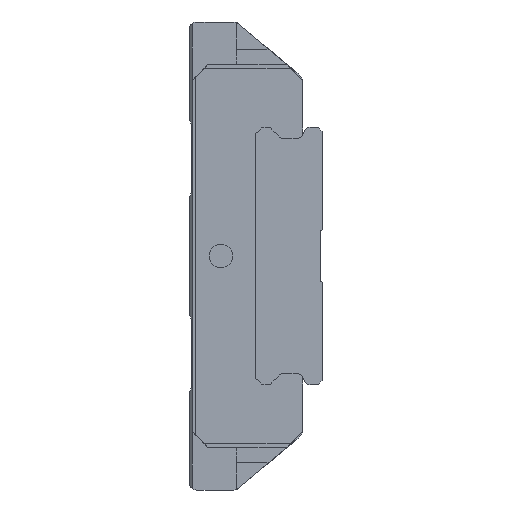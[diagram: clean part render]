
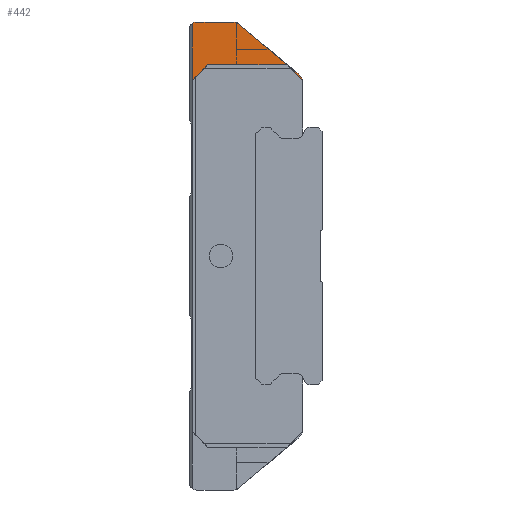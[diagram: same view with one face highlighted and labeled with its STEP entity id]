
A CAD part, left-side view. The second image highlights one B-rep face of the part: STEP entity #442.
In plain terms, the highlighted planar face has unit normal (-1, 0, 0).
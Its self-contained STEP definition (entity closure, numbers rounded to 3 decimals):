
#442 = ADVANCED_FACE( '', ( #1354 ), #1355, .F. );
#1354 = FACE_OUTER_BOUND( '', #2394, .T. );
#1355 = PLANE( '', #2395 );
#2394 = EDGE_LOOP( '', ( #5174, #5175, #5176, #5177, #5178, #5179, #5180, #5181, #5182 ) );
#2395 = AXIS2_PLACEMENT_3D( '', #5183, #5184, #5185 );
#5174 = ORIENTED_EDGE( '', *, *, #7000, .T. );
#5175 = ORIENTED_EDGE( '', *, *, #7003, .T. );
#5176 = ORIENTED_EDGE( '', *, *, #7004, .T. );
#5177 = ORIENTED_EDGE( '', *, *, #7005, .T. );
#5178 = ORIENTED_EDGE( '', *, *, #7006, .F. );
#5179 = ORIENTED_EDGE( '', *, *, #7007, .F. );
#5180 = ORIENTED_EDGE( '', *, *, #7008, .F. );
#5181 = ORIENTED_EDGE( '', *, *, #7009, .F. );
#5182 = ORIENTED_EDGE( '', *, *, #6968, .F. );
#5183 = CARTESIAN_POINT( '', ( 461., 2.5, 0. ) );
#5184 = DIRECTION( '', ( 1., 0., 0. ) );
#5185 = DIRECTION( '', ( 0., 0., -1. ) );
#6968 = EDGE_CURVE( '', #8620, #8622, #8623, .T. );
#7000 = EDGE_CURVE( '', #8620, #8673, #8675, .T. );
#7003 = EDGE_CURVE( '', #8673, #8678, #8679, .T. );
#7004 = EDGE_CURVE( '', #8678, #8680, #8681, .T. );
#7005 = EDGE_CURVE( '', #8680, #8682, #8683, .T. );
#7006 = EDGE_CURVE( '', #8684, #8682, #8685, .T. );
#7007 = EDGE_CURVE( '', #8686, #8684, #8687, .T. );
#7008 = EDGE_CURVE( '', #8688, #8686, #8689, .T. );
#7009 = EDGE_CURVE( '', #8622, #8688, #8690, .T. );
#8620 = VERTEX_POINT( '', #10775 );
#8622 = VERTEX_POINT( '', #10777 );
#8623 = CIRCLE( '', #10778, 1. );
#8673 = VERTEX_POINT( '', #10845 );
#8675 = LINE( '', #10848, #10849 );
#8678 = VERTEX_POINT( '', #10854 );
#8679 = LINE( '', #10855, #10856 );
#8680 = VERTEX_POINT( '', #10857 );
#8681 = LINE( '', #10858, #10859 );
#8682 = VERTEX_POINT( '', #10860 );
#8683 = LINE( '', #10861, #10862 );
#8684 = VERTEX_POINT( '', #10863 );
#8685 = CIRCLE( '', #10864, 1.997 );
#8686 = VERTEX_POINT( '', #10865 );
#8687 = LINE( '', #10866, #10867 );
#8688 = VERTEX_POINT( '', #10868 );
#8689 = CIRCLE( '', #10869, 1. );
#8690 = LINE( '', #10870, #10871 );
#10775 = CARTESIAN_POINT( '', ( 461., 16.7, 29.789 ) );
#10777 = CARTESIAN_POINT( '', ( 461., 16.086, 30. ) );
#10778 = AXIS2_PLACEMENT_3D( '', #13250, #13251, #13252 );
#10845 = CARTESIAN_POINT( '', ( 461., 16.7, 22.5 ) );
#10848 = CARTESIAN_POINT( '', ( 461., 16.7, 30. ) );
#10849 = VECTOR( '', #13310, 1. );
#10854 = CARTESIAN_POINT( '', ( 461., 14.7, 24.5 ) );
#10855 = CARTESIAN_POINT( '', ( 461., 17.775, 21.425 ) );
#10856 = VECTOR( '', #13313, 1. );
#10857 = CARTESIAN_POINT( '', ( 461., 4.5, 24.5 ) );
#10858 = CARTESIAN_POINT( '', ( 461., 3.5, 24.5 ) );
#10859 = VECTOR( '', #13314, 1. );
#10860 = CARTESIAN_POINT( '', ( 461., 2.513, 22.513 ) );
#10861 = CARTESIAN_POINT( '', ( 461., -3.125, 16.875 ) );
#10862 = VECTOR( '', #13315, 1. );
#10863 = CARTESIAN_POINT( '', ( 461., 3.115, 23.383 ) );
#10864 = AXIS2_PLACEMENT_3D( '', #13316, #13317, #13318 );
#10865 = CARTESIAN_POINT( '', ( 461., 10.721, 29.766 ) );
#10866 = CARTESIAN_POINT( '', ( 461., 10.721, 29.766 ) );
#10867 = VECTOR( '', #13319, 1. );
#10868 = CARTESIAN_POINT( '', ( 461., 11.364, 30. ) );
#10869 = AXIS2_PLACEMENT_3D( '', #13320, #13321, #13322 );
#10870 = CARTESIAN_POINT( '', ( 461., 16.086, 30. ) );
#10871 = VECTOR( '', #13323, 1. );
#13250 = CARTESIAN_POINT( '', ( 461., 16.086, 29. ) );
#13251 = DIRECTION( '', ( 1., 0., 0. ) );
#13252 = DIRECTION( '', ( 0., 0.914, 0.406 ) );
#13310 = DIRECTION( '', ( 0., 0., -1. ) );
#13313 = DIRECTION( '', ( 0., -0.707, 0.707 ) );
#13314 = DIRECTION( '', ( 0., -1., 0. ) );
#13315 = DIRECTION( '', ( 0., -0.707, -0.707 ) );
#13316 = CARTESIAN_POINT( '', ( 461., 4.397, 21.852 ) );
#13317 = DIRECTION( '', ( 1., 0., 0. ) );
#13318 = DIRECTION( '', ( 0., -0.642, 0.767 ) );
#13319 = DIRECTION( '', ( 0., -0.766, -0.643 ) );
#13320 = CARTESIAN_POINT( '', ( 461., 11.364, 29. ) );
#13321 = DIRECTION( '', ( 1., 0., 0. ) );
#13322 = DIRECTION( '', ( 0., 0., 1. ) );
#13323 = DIRECTION( '', ( 0., -1., 0. ) );
